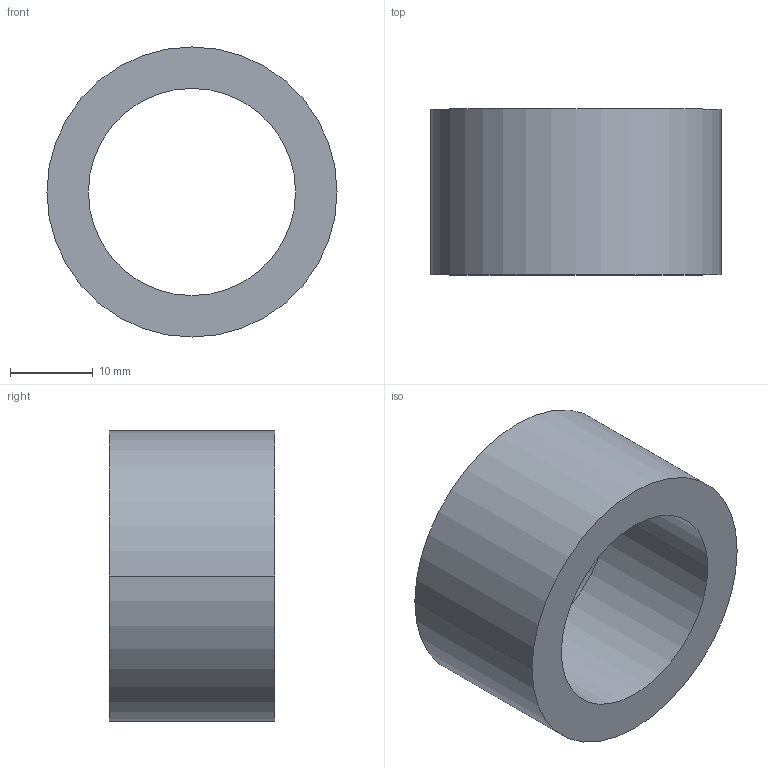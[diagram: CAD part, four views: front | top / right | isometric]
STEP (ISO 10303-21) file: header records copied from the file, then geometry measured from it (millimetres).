
FILE_DESCRIPTION (( 'STEP AP203' ), '1' );
FILE_NAME ('30800.WPP35H25.0.step', '2019-01-23T22:49:10', ( '' ), ( '' ), 'SwSTEP 2.0', 'SolidWorks 2017', '' );
FILE_SCHEMA (( 'CONFIG_CONTROL_DESIGN' ));
Length unit declared in the file: millimetre
Products named in the file (1): 30800.WPP35H25.0
Bounding box: 35 x 20 x 35 mm (x, y, z)
Volume: 9265 mm3; surface area: 4615.3 mm2
Topology: 1 solids, 1 shells, 8 faces, 16 edges, 10 vertices
Faces by surface type: cylinder 4, torus 2, plane 2
Entity records: 297 total; most frequent: DIRECTION 46, CARTESIAN_POINT 35, ORIENTED_EDGE 32, AXIS2_PLACEMENT_3D 21, EDGE_CURVE 16, CIRCLE 12, EDGE_LOOP 10, VERTEX_POINT 10
